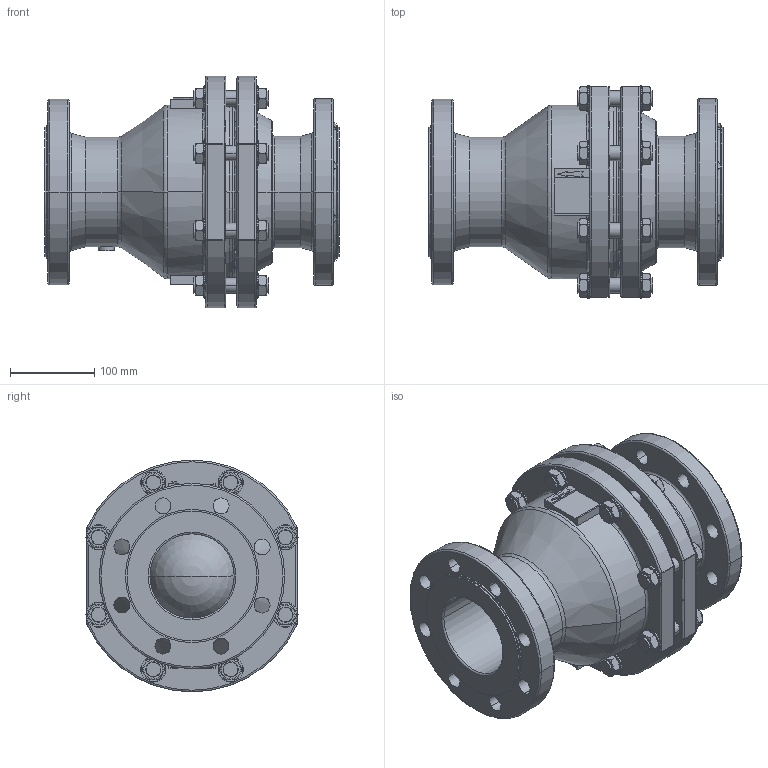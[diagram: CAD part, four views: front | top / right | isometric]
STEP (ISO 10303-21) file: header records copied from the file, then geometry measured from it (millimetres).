
FILE_DESCRIPTION((''),'2;1');
FILE_NAME('9595-100-0307_E_CV100_PROE','2015-03-23T',('SParmar1'),(''),'PRO/ENGINEER BY PARAMETRIC TECHNOLOGY CORPORATION, 2011040','PRO/ENGINEER BY PARAMETRIC TECHNOLOGY CORPORATION, 2011040','');
FILE_SCHEMA(('CONFIG_CONTROL_DESIGN'));
Length unit declared in the file: millimetre
Products named in the file (1): 9595-100-0307_E_CV100_PROE
Bounding box: 350 x 251.73 x 275 mm (x, y, z)
Volume: 7809799.6 mm3; surface area: 625305.7 mm2
Topology: 1 solids, 3 shells, 1092 faces, 2772 edges, 1761 vertices
Faces by surface type: plane 385, extrusion 287, torus 206, cylinder 174, sphere 20, cone 16, bspline 4
Entity records: 39969 total; most frequent: CARTESIAN_POINT 14684, ORIENTED_EDGE 5536, DIRECTION 4528, EDGE_CURVE 2768, VERTEX_POINT 1761, AXIS2_PLACEMENT_3D 1570, VECTOR 1388, EDGE_LOOP 1223
